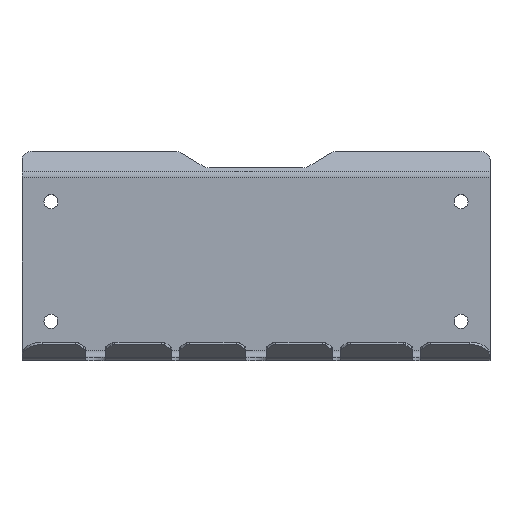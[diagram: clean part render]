
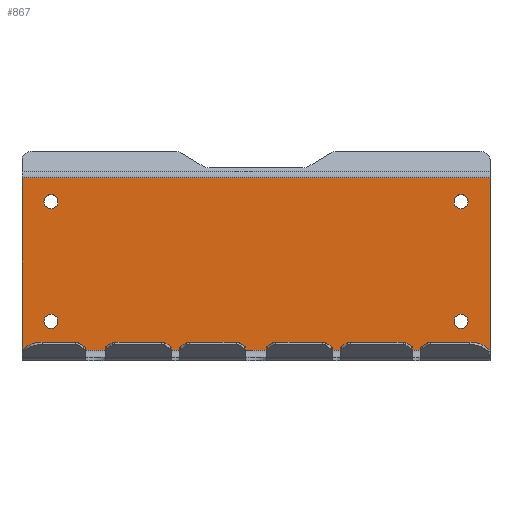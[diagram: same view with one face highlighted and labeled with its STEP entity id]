
A CAD part, top view. The second image highlights one B-rep face of the part: STEP entity #867.
In plain terms, the highlighted planar face has unit normal (0, 0, 1).
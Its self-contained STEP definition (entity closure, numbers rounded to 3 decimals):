
#45 = CARTESIAN_POINT ( 'NONE',  ( -116.4, -164., 13.2 ) ) ;
#87 = EDGE_CURVE ( 'NONE', #3565, #1039, #913, .T. ) ;
#114 = DIRECTION ( 'NONE',  ( 0., 0., 1. ) ) ;
#225 = CIRCLE ( 'NONE', #2508, 3.5 ) ;
#231 = ORIENTED_EDGE ( 'NONE', *, *, #87, .T. ) ;
#244 = DIRECTION ( 'NONE',  ( 0., 0., -1. ) ) ;
#523 = CARTESIAN_POINT ( 'NONE',  ( -116.4, -74.581, 13.2 ) ) ;
#550 = FACE_OUTER_BOUND ( 'NONE', #1315, .T. ) ;
#572 = CARTESIAN_POINT ( 'NONE',  ( 102., -86.5, 13.2 ) ) ;
#608 = DIRECTION ( 'NONE',  ( 0., 0., 1. ) ) ;
#750 = CARTESIAN_POINT ( 'NONE',  ( 102., -142.6, 13.2 ) ) ;
#867 = ADVANCED_FACE ( 'NONE', ( #1875, #2743, #1541, #4024, #550 ), #3043, .F. ) ;
#913 = LINE ( 'NONE', #4042, #1155 ) ;
#952 = DIRECTION ( 'NONE',  ( 1., 0., 0. ) ) ;
#1039 = VERTEX_POINT ( 'NONE', #1138 ) ;
#1138 = CARTESIAN_POINT ( 'NONE',  ( 116.4, -160.5, 13.2 ) ) ;
#1155 = VECTOR ( 'NONE', #952, 1000. ) ;
#1277 = LINE ( 'NONE', #45, #2467 ) ;
#1308 = DIRECTION ( 'NONE',  ( 0., 1., 0. ) ) ;
#1315 = EDGE_LOOP ( 'NONE', ( #1961, #231, #2001, #3979 ) ) ;
#1324 = VERTEX_POINT ( 'NONE', #2561 ) ;
#1354 = EDGE_LOOP ( 'NONE', ( #2695 ) ) ;
#1375 = VECTOR ( 'NONE', #1890, 1000. ) ;
#1384 = CARTESIAN_POINT ( 'NONE',  ( 102., -83., 13.2 ) ) ;
#1459 = CARTESIAN_POINT ( 'NONE',  ( 102., -146.1, 13.2 ) ) ;
#1541 = FACE_BOUND ( 'NONE', #3596, .T. ) ;
#1574 = VERTEX_POINT ( 'NONE', #2450 ) ;
#1673 = CARTESIAN_POINT ( 'NONE',  ( -116.4, -160.5, 13.2 ) ) ;
#1683 = ORIENTED_EDGE ( 'NONE', *, *, #3144, .F. ) ;
#1815 = DIRECTION ( 'NONE',  ( 0., 0., 1. ) ) ;
#1849 = DIRECTION ( 'NONE',  ( 0., 1., 0. ) ) ;
#1875 = FACE_BOUND ( 'NONE', #3416, .T. ) ;
#1890 = DIRECTION ( 'NONE',  ( -1., 0., 0. ) ) ;
#1904 = CARTESIAN_POINT ( 'NONE',  ( 116.4, -164., 13.2 ) ) ;
#1961 = ORIENTED_EDGE ( 'NONE', *, *, #3594, .T. ) ;
#1968 = DIRECTION ( 'NONE',  ( 0., -1., 0. ) ) ;
#2001 = ORIENTED_EDGE ( 'NONE', *, *, #3554, .F. ) ;
#2047 = AXIS2_PLACEMENT_3D ( 'NONE', #3400, #608, #1849 ) ;
#2161 = ORIENTED_EDGE ( 'NONE', *, *, #2605, .F. ) ;
#2213 = CARTESIAN_POINT ( 'NONE',  ( 116.4, -74.581, 13.2 ) ) ;
#2242 = CIRCLE ( 'NONE', #2047, 3.5 ) ;
#2274 = EDGE_CURVE ( 'NONE', #1324, #1324, #2242, .T. ) ;
#2324 = DIRECTION ( 'NONE',  ( 0., 0., 1. ) ) ;
#2332 = CARTESIAN_POINT ( 'NONE',  ( -102., -83., 13.2 ) ) ;
#2450 = CARTESIAN_POINT ( 'NONE',  ( 116.4, -74.581, 13.2 ) ) ;
#2467 = VECTOR ( 'NONE', #3755, 1000. ) ;
#2470 = ORIENTED_EDGE ( 'NONE', *, *, #2274, .F. ) ;
#2475 = EDGE_LOOP ( 'NONE', ( #2161 ) ) ;
#2499 = CIRCLE ( 'NONE', #2643, 3.5 ) ;
#2508 = AXIS2_PLACEMENT_3D ( 'NONE', #572, #1815, #3650 ) ;
#2517 = LINE ( 'NONE', #1904, #3319 ) ;
#2561 = CARTESIAN_POINT ( 'NONE',  ( -102., -142.6, 13.2 ) ) ;
#2605 = EDGE_CURVE ( 'NONE', #2919, #2919, #2499, .T. ) ;
#2627 = VERTEX_POINT ( 'NONE', #2332 ) ;
#2629 = CARTESIAN_POINT ( 'NONE',  ( -102., -86.5, 13.2 ) ) ;
#2643 = AXIS2_PLACEMENT_3D ( 'NONE', #1459, #2324, #3558 ) ;
#2695 = ORIENTED_EDGE ( 'NONE', *, *, #3656, .F. ) ;
#2743 = FACE_BOUND ( 'NONE', #2475, .T. ) ;
#2836 = LINE ( 'NONE', #2213, #1375 ) ;
#2919 = VERTEX_POINT ( 'NONE', #750 ) ;
#3043 = PLANE ( 'NONE',  #3213 ) ;
#3144 = EDGE_CURVE ( 'NONE', #3239, #3239, #225, .T. ) ;
#3213 = AXIS2_PLACEMENT_3D ( 'NONE', #3984, #244, #3710 ) ;
#3239 = VERTEX_POINT ( 'NONE', #1384 ) ;
#3262 = EDGE_CURVE ( 'NONE', #1574, #3777, #2836, .T. ) ;
#3319 = VECTOR ( 'NONE', #1968, 1000. ) ;
#3323 = AXIS2_PLACEMENT_3D ( 'NONE', #2629, #114, #1308 ) ;
#3400 = CARTESIAN_POINT ( 'NONE',  ( -102., -146.1, 13.2 ) ) ;
#3416 = EDGE_LOOP ( 'NONE', ( #1683 ) ) ;
#3554 = EDGE_CURVE ( 'NONE', #1574, #1039, #2517, .T. ) ;
#3558 = DIRECTION ( 'NONE',  ( 0., 1., 0. ) ) ;
#3565 = VERTEX_POINT ( 'NONE', #1673 ) ;
#3594 = EDGE_CURVE ( 'NONE', #3777, #3565, #1277, .T. ) ;
#3596 = EDGE_LOOP ( 'NONE', ( #2470 ) ) ;
#3650 = DIRECTION ( 'NONE',  ( 0., 1., 0. ) ) ;
#3651 = CIRCLE ( 'NONE', #3323, 3.5 ) ;
#3656 = EDGE_CURVE ( 'NONE', #2627, #2627, #3651, .T. ) ;
#3710 = DIRECTION ( 'NONE',  ( 0., 1., 0. ) ) ;
#3755 = DIRECTION ( 'NONE',  ( 0., -1., 0. ) ) ;
#3777 = VERTEX_POINT ( 'NONE', #523 ) ;
#3979 = ORIENTED_EDGE ( 'NONE', *, *, #3262, .T. ) ;
#3984 = CARTESIAN_POINT ( 'NONE',  ( 116.4, -164., 13.2 ) ) ;
#4024 = FACE_BOUND ( 'NONE', #1354, .T. ) ;
#4042 = CARTESIAN_POINT ( 'NONE',  ( 116.4, -160.5, 13.2 ) ) ;
